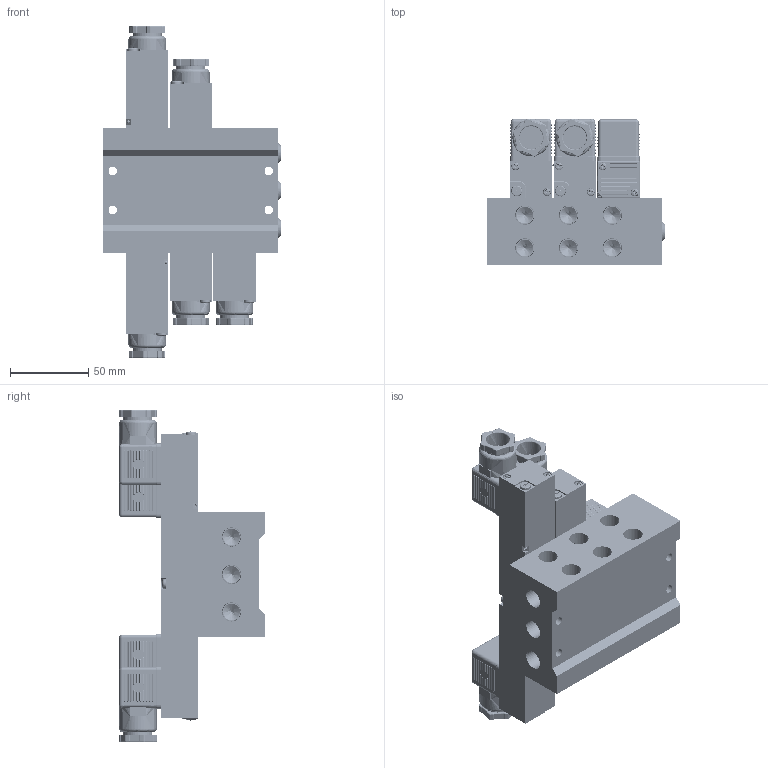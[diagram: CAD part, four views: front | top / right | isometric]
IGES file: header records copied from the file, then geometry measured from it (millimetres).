
Start section: SolidWorks IGES file using analytic representation for surfaces
Global section: file name: D:\Custom\3D繪製\PC\PC06\MFS#-PC06-02-C.IGS,1; native system: 5HSolidWorks 2014; preprocessor: SolidWorks 2014; author: Chieh_Lu; date: 150820.101500; units: millimetre
Bounding box: 113.51 x 93.64 x 212.7 mm (x, y, z)
Surface area: 161719.3 mm2 (no closed solid volume)
Topology: 0 solids, 0 shells, 3632 faces, 29279 edges, 28518 vertices
Faces by surface type: revolution 2093, bspline 1539
